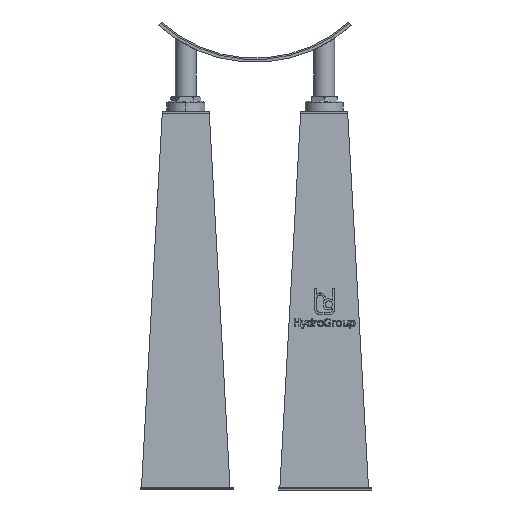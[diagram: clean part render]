
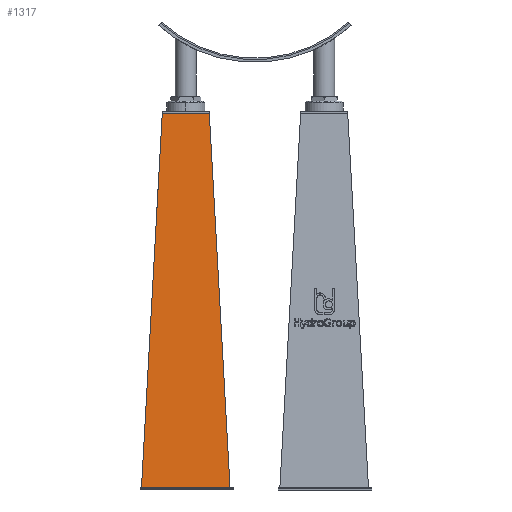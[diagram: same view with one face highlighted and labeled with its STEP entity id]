
A CAD part, front view. The second image highlights one B-rep face of the part: STEP entity #1317.
In plain terms, the highlighted planar face has unit normal (0, -0.999, 0.055).
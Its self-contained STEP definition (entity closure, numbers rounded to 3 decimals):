
#1317=ADVANCED_FACE('',(#2625),#2626,.F.);
#2625=FACE_OUTER_BOUND('',#4002,.T.);
#2626=PLANE('',#4003);
#4002=EDGE_LOOP('',(#8016,#8017,#8018,#8019));
#4003=AXIS2_PLACEMENT_3D('',#8020,#8021,#8022);
#8016=ORIENTED_EDGE('',*,*,#9513,.F.);
#8017=ORIENTED_EDGE('',*,*,#9547,.F.);
#8018=ORIENTED_EDGE('',*,*,#9541,.F.);
#8019=ORIENTED_EDGE('',*,*,#9267,.T.);
#8020=CARTESIAN_POINT('',(229.352,361.031,567.517));
#8021=DIRECTION('',(0.,0.998,-0.055));
#8022=DIRECTION('',(1.0,0.,0.));
#9267=EDGE_CURVE('',#11249,#11246,#11250,.F.);
#9513=EDGE_CURVE('',#11573,#11246,#11575,.F.);
#9541=EDGE_CURVE('',#11249,#11608,#11613,.T.);
#9547=EDGE_CURVE('',#11608,#11573,#11619,.T.);
#11246=VERTEX_POINT('',#14957);
#11249=VERTEX_POINT('',#14961);
#11250=LINE('',#14962,#14963);
#11573=VERTEX_POINT('',#15548);
#11575=LINE('',#15551,#15552);
#11608=VERTEX_POINT('',#15600);
#11613=LINE('',#15608,#15609);
#11619=LINE('',#15616,#15617);
#14957=CARTESIAN_POINT('',(36.348,301.022,-514.65));
#14961=CARTESIAN_POINT('',(96.348,361.022,567.35));
#14962=CARTESIAN_POINT('',(96.565,361.239,571.264));
#14963=VECTOR('',#16763,1.);
#15548=CARTESIAN_POINT('',(292.357,301.022,-514.65));
#15551=CARTESIAN_POINT('',(196.852,301.022,-514.65));
#15552=VECTOR('',#16939,1.);
#15600=CARTESIAN_POINT('',(232.357,361.022,567.35));
#15608=CARTESIAN_POINT('',(196.852,361.022,567.35));
#15609=VECTOR('',#16958,1.);
#15616=CARTESIAN_POINT('',(232.14,361.239,571.264));
#15617=VECTOR('',#16960,1.);
#16763=DIRECTION('',(0.055,0.055,0.997));
#16939=DIRECTION('',(1.0,0.,0.));
#16958=DIRECTION('',(1.0,0.,0.));
#16960=DIRECTION('',(0.055,-0.055,-0.997));
